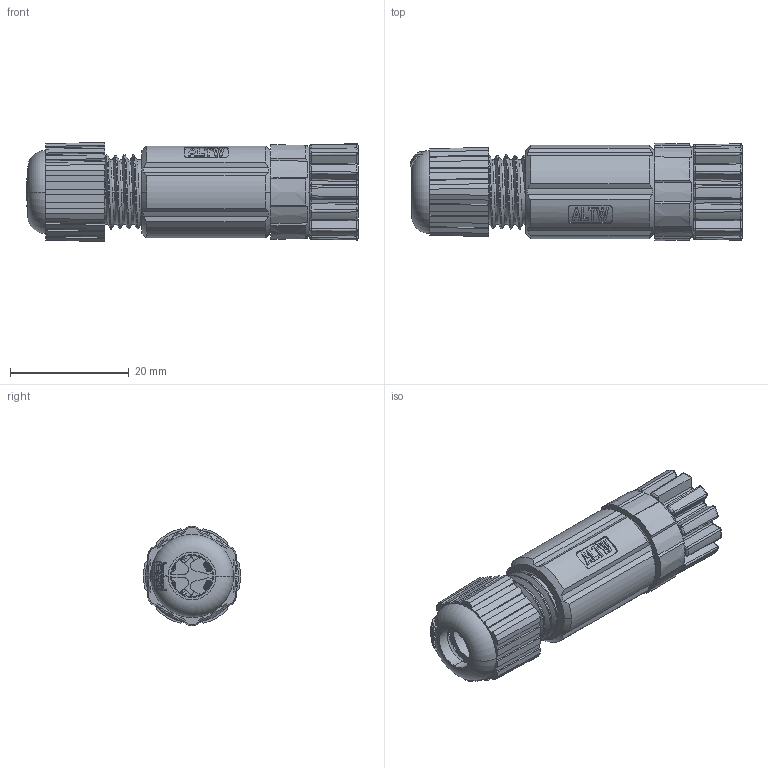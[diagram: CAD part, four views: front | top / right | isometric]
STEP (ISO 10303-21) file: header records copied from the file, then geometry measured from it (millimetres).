
FILE_DESCRIPTION((''),'2;1');
FILE_NAME('M8P-04BFFB-SL7001_SW0001','2024-01-03T',('L230003'),(''),'PRO/ENGINEER BY PARAMETRIC TECHNOLOGY CORPORATION, 2017170','PRO/ENGINEER BY PARAMETRIC TECHNOLOGY CORPORATION, 2017170','');
FILE_SCHEMA(('CONFIG_CONTROL_DESIGN'));
Length unit declared in the file: millimetre
Products named in the file (1): M8P-04BFFB-SL7001_SW0001
Bounding box: 55.99 x 16.43 x 16.7 mm (x, y, z)
Volume: 6910.9 mm3; surface area: 7991.7 mm2
Topology: 1 solids, 3 shells, 1434 faces, 3905 edges, 2470 vertices
Faces by surface type: plane 444, bspline 320, cylinder 292, extrusion 150, torus 94, cone 80, sphere 54
Entity records: 103964 total; most frequent: CARTESIAN_POINT 60733, ORIENTED_EDGE 7794, DIRECTION 5245, EDGE_CURVE 3897, VERTEX_POINT 2470, AXIS2_PLACEMENT_3D 1806, B_SPLINE_CURVE_WITH_KNOTS 1722, VECTOR 1633
